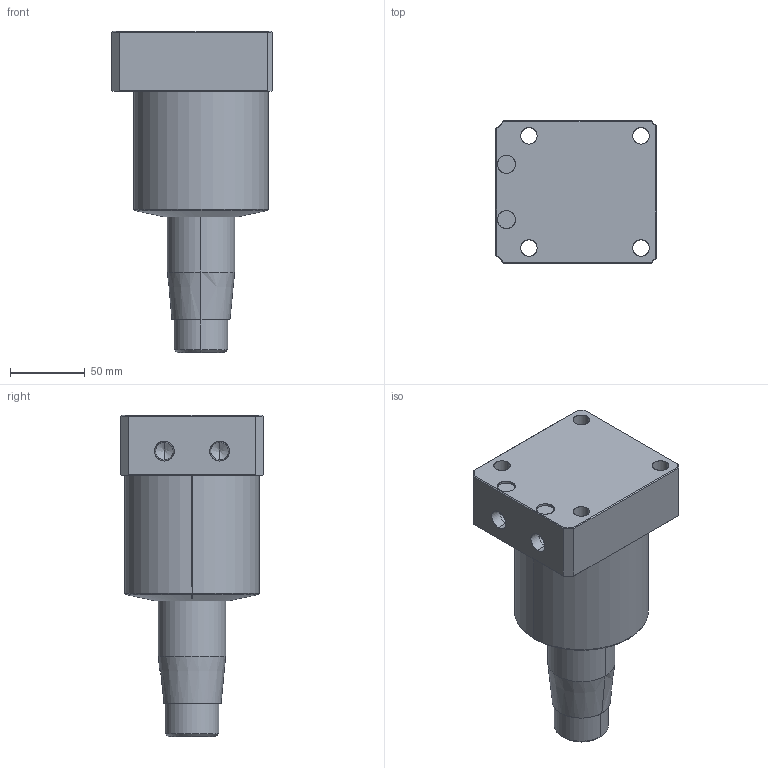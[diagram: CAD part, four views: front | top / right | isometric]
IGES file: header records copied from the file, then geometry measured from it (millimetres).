
Start section: SolidWorks IGES file using analytic representation for surfaces
Global section: file name: E:\ALL SSVT IGS MODEL\ALL-SWING-IGS\SWING-90\SC02-901-902-LH-RH-BM-TAPER\SB03-901-RH-BM-TAPER.IGS; native system: SolidWorks 2019; preprocessor: SolidWorks 2019; author: SSVT; date: 210823.132225; units: millimetre
Bounding box: 107 x 95 x 215 mm (x, y, z)
Surface area: 97558.1 mm2 (no closed solid volume)
Topology: 0 solids, 0 shells, 73 faces, 1218 edges, 1214 vertices
Faces by surface type: revolution 40, bspline 33
